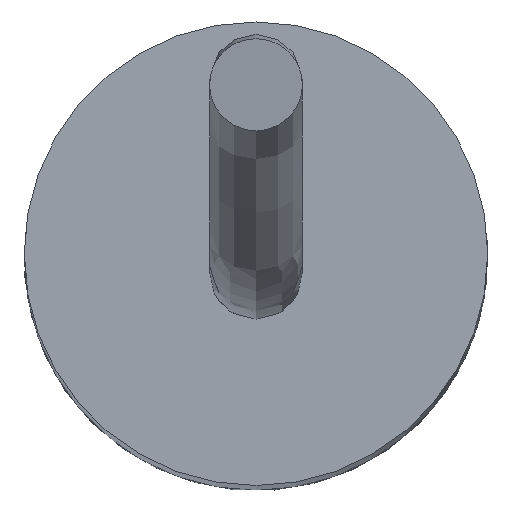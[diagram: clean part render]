
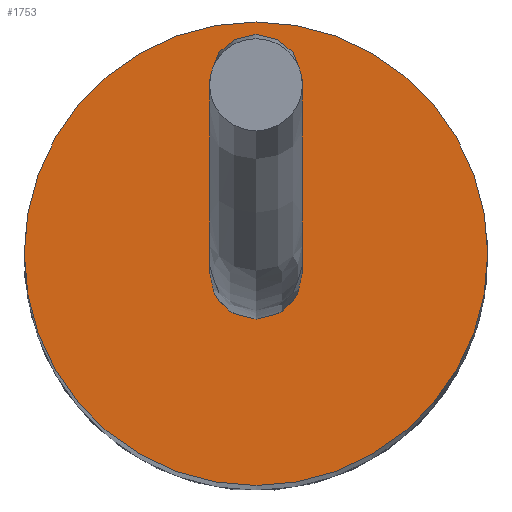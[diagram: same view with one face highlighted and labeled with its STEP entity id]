
A CAD part, top view. The second image highlights one B-rep face of the part: STEP entity #1753.
In plain terms, the highlighted planar face has unit normal (0, 0, 1).
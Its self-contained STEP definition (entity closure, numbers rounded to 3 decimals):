
#30 = ORIENTED_EDGE ( 'NONE', *, *, #990, .T. ) ;
#49 = VERTEX_POINT ( 'NONE', #313 ) ;
#65 = AXIS2_PLACEMENT_3D ( 'NONE', #883, #1723, #1211 ) ;
#111 = DIRECTION ( 'NONE',  ( 0., 0., 1. ) ) ;
#133 = ORIENTED_EDGE ( 'NONE', *, *, #1731, .F. ) ;
#231 = CIRCLE ( 'NONE', #1488, 2. ) ;
#313 = CARTESIAN_POINT ( 'NONE',  ( -2., 0., 0. ) ) ;
#371 = DIRECTION ( 'NONE',  ( 1., 0., 0. ) ) ;
#382 = DIRECTION ( 'NONE',  ( 0., 0., 1. ) ) ;
#418 = DIRECTION ( 'NONE',  ( 1., 0., 0. ) ) ;
#420 = DIRECTION ( 'NONE',  ( 1., 0., 0. ) ) ;
#536 = VERTEX_POINT ( 'NONE', #1392 ) ;
#550 = FACE_BOUND ( 'NONE', #724, .T. ) ;
#568 = DIRECTION ( 'NONE',  ( 0., 0., 1. ) ) ;
#581 = ORIENTED_EDGE ( 'NONE', *, *, #629, .T. ) ;
#629 = EDGE_CURVE ( 'NONE', #536, #925, #1487, .T. ) ;
#696 = CARTESIAN_POINT ( 'NONE',  ( 0., 0., 0. ) ) ;
#724 = EDGE_LOOP ( 'NONE', ( #133, #1204 ) ) ;
#829 = CIRCLE ( 'NONE', #65, 2. ) ;
#883 = CARTESIAN_POINT ( 'NONE',  ( 0., 0., 0. ) ) ;
#925 = VERTEX_POINT ( 'NONE', #1636 ) ;
#944 = CARTESIAN_POINT ( 'NONE',  ( 0., 0., 0. ) ) ;
#990 = EDGE_CURVE ( 'NONE', #925, #536, #1347, .T. ) ;
#1071 = EDGE_LOOP ( 'NONE', ( #581, #30 ) ) ;
#1097 = DIRECTION ( 'NONE',  ( 0., 0., 1. ) ) ;
#1204 = ORIENTED_EDGE ( 'NONE', *, *, #1394, .F. ) ;
#1207 = AXIS2_PLACEMENT_3D ( 'NONE', #696, #111, #418 ) ;
#1211 = DIRECTION ( 'NONE',  ( 1., 0., 0. ) ) ;
#1251 = CARTESIAN_POINT ( 'NONE',  ( 0., 0., 0. ) ) ;
#1291 = AXIS2_PLACEMENT_3D ( 'NONE', #944, #1097, #420 ) ;
#1340 = PLANE ( 'NONE',  #1291 ) ;
#1347 = CIRCLE ( 'NONE', #1207, 10. ) ;
#1392 = CARTESIAN_POINT ( 'NONE',  ( 10., 0., 0. ) ) ;
#1394 = EDGE_CURVE ( 'NONE', #49, #1679, #231, .T. ) ;
#1464 = AXIS2_PLACEMENT_3D ( 'NONE', #1251, #568, #1658 ) ;
#1487 = CIRCLE ( 'NONE', #1464, 10. ) ;
#1488 = AXIS2_PLACEMENT_3D ( 'NONE', #1592, #382, #371 ) ;
#1507 = FACE_OUTER_BOUND ( 'NONE', #1071, .T. ) ;
#1561 = CARTESIAN_POINT ( 'NONE',  ( 2., 0., 0. ) ) ;
#1592 = CARTESIAN_POINT ( 'NONE',  ( 0., 0., 0. ) ) ;
#1636 = CARTESIAN_POINT ( 'NONE',  ( -10., 0., 0. ) ) ;
#1658 = DIRECTION ( 'NONE',  ( 1., 0., 0. ) ) ;
#1679 = VERTEX_POINT ( 'NONE', #1561 ) ;
#1723 = DIRECTION ( 'NONE',  ( 0., 0., 1. ) ) ;
#1731 = EDGE_CURVE ( 'NONE', #1679, #49, #829, .T. ) ;
#1753 = ADVANCED_FACE ( 'NONE', ( #550, #1507 ), #1340, .T. ) ;
